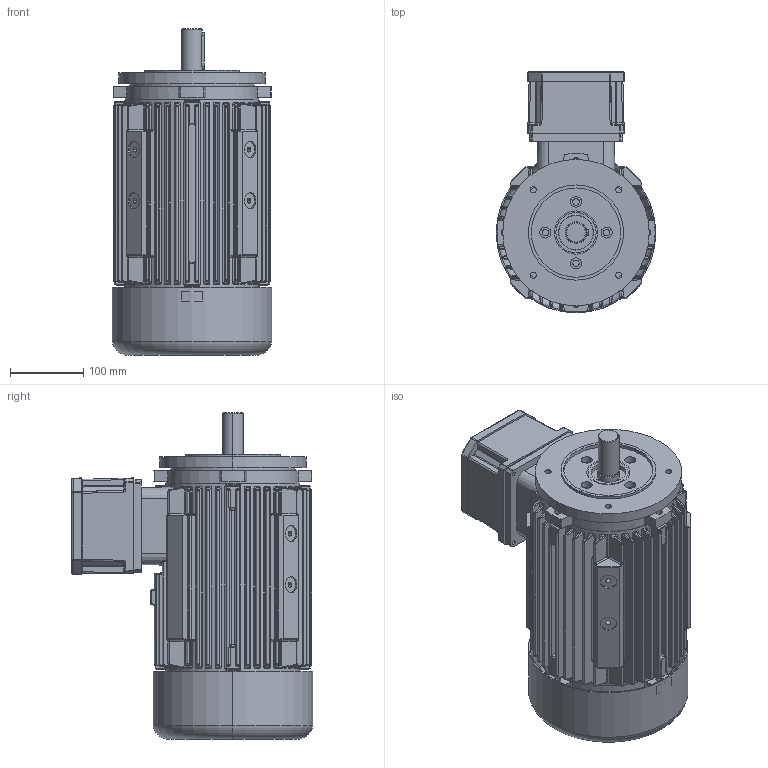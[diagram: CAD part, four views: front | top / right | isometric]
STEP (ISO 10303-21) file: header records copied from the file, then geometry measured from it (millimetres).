
FILE_DESCRIPTION (( 'STEP AP214' ), '1' );
FILE_NAME ('7AT 112 Exd config.STEP', '2018-05-11T10:34:14', ( '' ), ( '' ), 'SwSTEP 2.0', 'SolidWorks 2017', '' );
FILE_SCHEMA (( 'AUTOMOTIVE_DESIGN' ));
Length unit declared in the file: millimetre
Products named in the file (1): 7AT 112 Exd config
Bounding box: 218 x 329.6 x 446 mm (x, y, z)
Volume: 5152547.6 mm3; surface area: 1303538.5 mm2
Topology: 10 solids, 10 shells, 2963 faces, 7114 edges, 4039 vertices
Faces by surface type: cylinder 1068, bspline 988, plane 538, sphere 158, cone 114, torus 97
Entity records: 146603 total; most frequent: CARTESIAN_POINT 60009, ORIENTED_EDGE 13684, DIRECTION 10919, EDGE_CURVE 6842, AXIS2_PLACEMENT_3D 4358, VERTEX_POINT 4029, EDGE_LOOP 3173, FACE_OUTER_BOUND 2963
